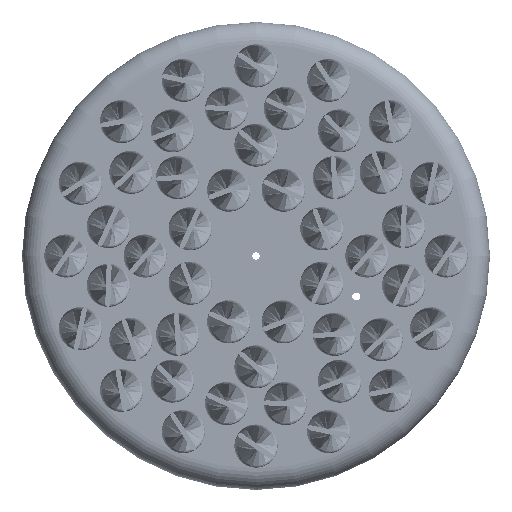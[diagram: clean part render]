
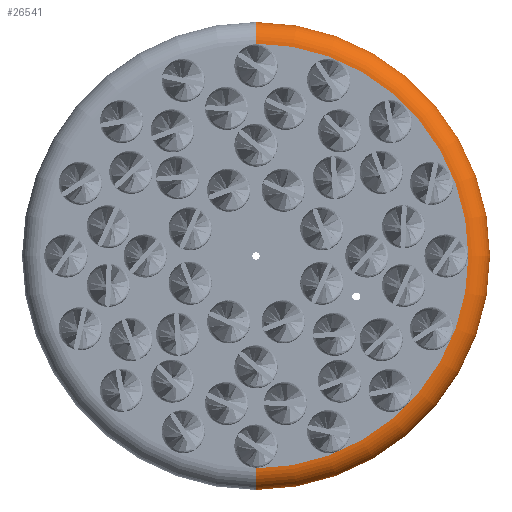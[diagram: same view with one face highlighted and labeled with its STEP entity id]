
A CAD part, front view. The second image highlights one B-rep face of the part: STEP entity #26541.
In plain terms, the highlighted toroidal (fillet/blend) face has major radius 295 mm and minor radius 30 mm.
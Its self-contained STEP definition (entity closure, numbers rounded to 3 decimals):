
#65 = CARTESIAN_POINT ( 'NONE',  ( 0., 34., 295. ) ) ;
#2174 = DIRECTION ( 'NONE',  ( 1., 0., 0. ) ) ;
#2319 = VERTEX_POINT ( 'NONE', #17795 ) ;
#2506 = VERTEX_POINT ( 'NONE', #65 ) ;
#5378 = DIRECTION ( 'NONE',  ( 0., -1., 0. ) ) ;
#7358 = FACE_OUTER_BOUND ( 'NONE', #25853, .T. ) ;
#8603 = DIRECTION ( 'NONE',  ( 0., 0., 1. ) ) ;
#9660 = AXIS2_PLACEMENT_3D ( 'NONE', #20744, #2174, #21582 ) ;
#10453 = DIRECTION ( 'NONE',  ( 0., 0., 1. ) ) ;
#11666 = AXIS2_PLACEMENT_3D ( 'NONE', #25089, #12868, #25467 ) ;
#12139 = AXIS2_PLACEMENT_3D ( 'NONE', #22637, #13739, #10453 ) ;
#12196 = CARTESIAN_POINT ( 'NONE',  ( 0., 4., 0. ) ) ;
#12868 = DIRECTION ( 'NONE',  ( -1., 0., 0. ) ) ;
#13710 = ORIENTED_EDGE ( 'NONE', *, *, #29381, .F. ) ;
#13739 = DIRECTION ( 'NONE',  ( 0., 1., 0. ) ) ;
#14090 = ORIENTED_EDGE ( 'NONE', *, *, #21884, .F. ) ;
#14303 = EDGE_CURVE ( 'NONE', #24723, #2319, #20847, .T. ) ;
#14675 = EDGE_CURVE ( 'NONE', #34217, #2506, #20912, .T. ) ;
#17718 = ORIENTED_EDGE ( 'NONE', *, *, #14303, .T. ) ;
#17795 = CARTESIAN_POINT ( 'NONE',  ( 0., 34., -295. ) ) ;
#18868 = AXIS2_PLACEMENT_3D ( 'NONE', #12196, #5378, #37157 ) ;
#20397 = AXIS2_PLACEMENT_3D ( 'NONE', #26959, #23867, #8603 ) ;
#20744 = CARTESIAN_POINT ( 'NONE',  ( 0., 4., -295. ) ) ;
#20847 = CIRCLE ( 'NONE', #9660, 30. ) ;
#20912 = CIRCLE ( 'NONE', #11666, 30. ) ;
#21582 = DIRECTION ( 'NONE',  ( 0., 0., -1. ) ) ;
#21884 = EDGE_CURVE ( 'NONE', #24723, #34217, #38613, .T. ) ;
#22637 = CARTESIAN_POINT ( 'NONE',  ( 0., 4., 0. ) ) ;
#23867 = DIRECTION ( 'NONE',  ( 0., 1., 0. ) ) ;
#24193 = CARTESIAN_POINT ( 'NONE',  ( 0., 4., -325. ) ) ;
#24723 = VERTEX_POINT ( 'NONE', #24193 ) ;
#25089 = CARTESIAN_POINT ( 'NONE',  ( 0., 4., 295. ) ) ;
#25467 = DIRECTION ( 'NONE',  ( 0., 0., 1. ) ) ;
#25853 = EDGE_LOOP ( 'NONE', ( #14090, #17718, #13710, #38481 ) ) ;
#26541 = ADVANCED_FACE ( 'NONE', ( #7358 ), #36511, .T. ) ;
#26959 = CARTESIAN_POINT ( 'NONE',  ( 0., 34., 0. ) ) ;
#29381 = EDGE_CURVE ( 'NONE', #2506, #2319, #30263, .T. ) ;
#30263 = CIRCLE ( 'NONE', #20397, 295. ) ;
#34188 = CARTESIAN_POINT ( 'NONE',  ( 0., 4., 325. ) ) ;
#34217 = VERTEX_POINT ( 'NONE', #34188 ) ;
#36511 = TOROIDAL_SURFACE ( 'NONE', #12139, 295., 30. ) ;
#37157 = DIRECTION ( 'NONE',  ( 0., 0., 1. ) ) ;
#38481 = ORIENTED_EDGE ( 'NONE', *, *, #14675, .F. ) ;
#38613 = CIRCLE ( 'NONE', #18868, 325. ) ;
